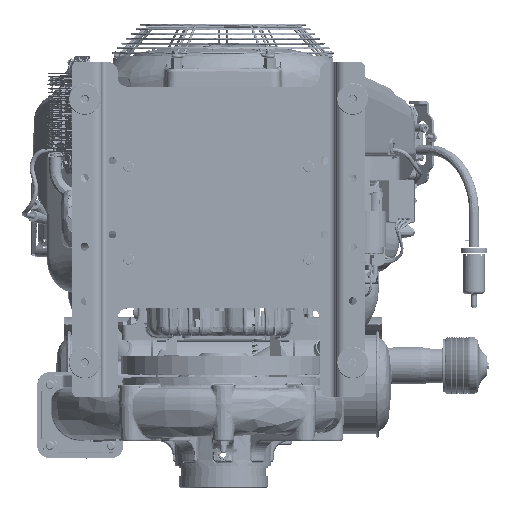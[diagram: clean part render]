
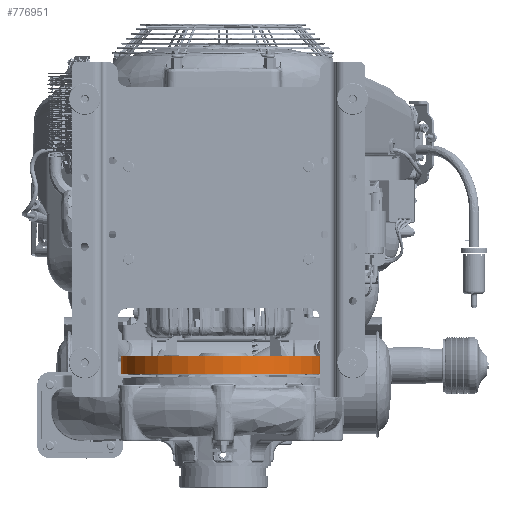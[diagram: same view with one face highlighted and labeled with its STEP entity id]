
A CAD part, front view. The second image highlights one B-rep face of the part: STEP entity #776951.
In plain terms, the highlighted cylindrical face has radius 131.686 mm (diameter 263.373 mm), a partial arc.
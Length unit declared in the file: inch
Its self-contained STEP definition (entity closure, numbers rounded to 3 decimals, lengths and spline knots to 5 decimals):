
#58668 = CARTESIAN_POINT ( 'NONE',  ( 5.1845, 0., -5.23101 ) ) ;
#68792 = CARTESIAN_POINT ( 'NONE',  ( 0., 0., -5.23101 ) ) ;
#78629 = CARTESIAN_POINT ( 'NONE',  ( -5.1845, 0., -5.23101 ) ) ;
#116375 = VECTOR ( 'NONE', #670908, 39.37008 ) ;
#120430 = EDGE_LOOP ( 'NONE', ( #696094, #698980, #661161, #451326 ) ) ;
#122909 = CARTESIAN_POINT ( 'NONE',  ( 5.1845, 0., -2.48197 ) ) ;
#132586 = LINE ( 'NONE', #736643, #169702 ) ;
#163106 = VERTEX_POINT ( 'NONE', #78629 ) ;
#169702 = VECTOR ( 'NONE', #672736, 39.37008 ) ;
#209015 = EDGE_CURVE ( 'NONE', #163106, #509839, #132586, .T. ) ;
#220113 = CIRCLE ( 'NONE', #270879, 5.1845 ) ;
#249902 = FACE_OUTER_BOUND ( 'NONE', #120430, .T. ) ;
#270879 = AXIS2_PLACEMENT_3D ( 'NONE', #332979, #641012, #708962 ) ;
#302869 = LINE ( 'NONE', #122909, #116375 ) ;
#313908 = CARTESIAN_POINT ( 'NONE',  ( 0., 0., -2.48197 ) ) ;
#332979 = CARTESIAN_POINT ( 'NONE',  ( 0., 0., -4.35601 ) ) ;
#388530 = DIRECTION ( 'NONE',  ( 0., 0., 1. ) ) ;
#409559 = VERTEX_POINT ( 'NONE', #577675 ) ;
#451326 = ORIENTED_EDGE ( 'NONE', *, *, #209015, .F. ) ;
#473703 = CIRCLE ( 'NONE', #665624, 5.1845 ) ;
#509839 = VERTEX_POINT ( 'NONE', #629548 ) ;
#524323 = VERTEX_POINT ( 'NONE', #58668 ) ;
#577675 = CARTESIAN_POINT ( 'NONE',  ( 5.1845, 0., -4.35601 ) ) ;
#578300 = EDGE_CURVE ( 'NONE', #524323, #409559, #302869, .T. ) ;
#581798 = EDGE_CURVE ( 'NONE', #163106, #524323, #473703, .T. ) ;
#585213 = EDGE_CURVE ( 'NONE', #509839, #409559, #220113, .T. ) ;
#602183 = DIRECTION ( 'NONE',  ( 0., 0., 1. ) ) ;
#629548 = CARTESIAN_POINT ( 'NONE',  ( -5.1845, 0., -4.35601 ) ) ;
#641012 = DIRECTION ( 'NONE',  ( 0., 0., 1. ) ) ;
#661161 = ORIENTED_EDGE ( 'NONE', *, *, #585213, .F. ) ;
#665624 = AXIS2_PLACEMENT_3D ( 'NONE', #68792, #388530, #756448 ) ;
#670908 = DIRECTION ( 'NONE',  ( 0., 0., 1. ) ) ;
#672736 = DIRECTION ( 'NONE',  ( 0., 0., 1. ) ) ;
#696094 = ORIENTED_EDGE ( 'NONE', *, *, #581798, .T. ) ;
#698980 = ORIENTED_EDGE ( 'NONE', *, *, #578300, .T. ) ;
#708962 = DIRECTION ( 'NONE',  ( -1., 0., 0. ) ) ;
#725778 = AXIS2_PLACEMENT_3D ( 'NONE', #313908, #602183, #726149 ) ;
#726149 = DIRECTION ( 'NONE',  ( -1., 0., 0. ) ) ;
#736643 = CARTESIAN_POINT ( 'NONE',  ( -5.1845, 0., -2.48197 ) ) ;
#756448 = DIRECTION ( 'NONE',  ( -1., 0., 0. ) ) ;
#776951 = ADVANCED_FACE ( 'NONE', ( #249902 ), #790110, .T. ) ;
#790110 = CYLINDRICAL_SURFACE ( 'NONE', #725778, 5.1845 ) ;
